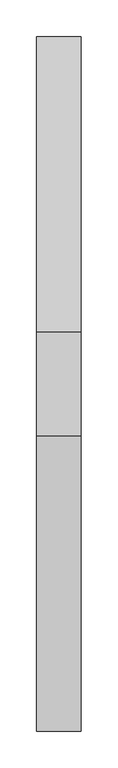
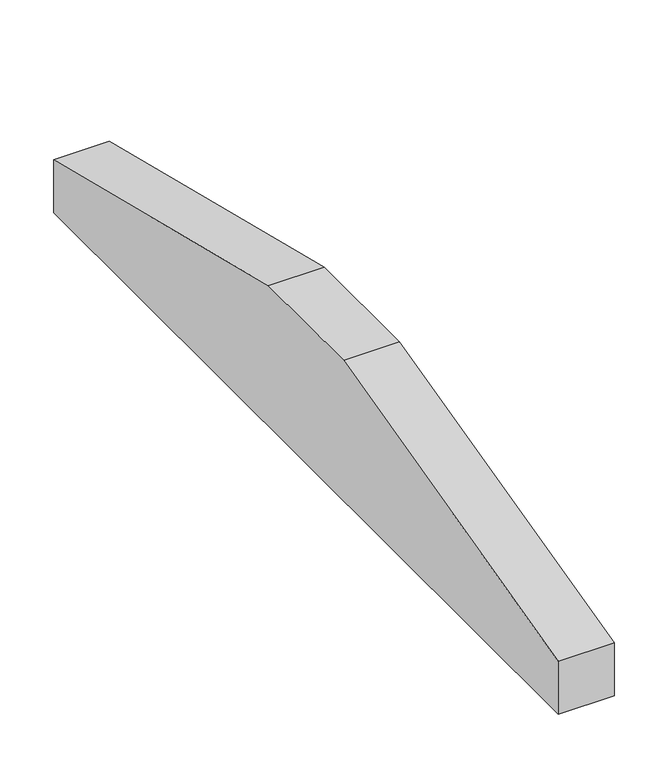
"""IFC4 building model written with IfcOpenShell, lengths in millimetres: proxy geometry, Modelos genéricos 164 : Modelos genéricos 144."""

from ifc_helpers import new_model, si_unit, frame, origin, place, context, project, spatial, polyline, outline, extrude, source, transform, mapped, element, save


def generic_models_764a092e(model_context):
    return source(origin(), model_context, "Body", "SweptSolid", [
        extrude(outline(polyline([(2018.6238165, 4209.7515316), (2418.6238165, 4110.0203305), (2418.6238165, 4049.7515316), (1478.6238165, 4049.7515316), (1478.6238165, 4110.0203305), (1878.6238165, 4209.7515316), (2018.6238165, 4209.7515316)])), frame((55213.4472467, 0.0, 0.0), z_axis=(1.0, 0.0, 0.0), x_axis=(0.0, 1.0, 0.0)), (0.0, 0.0, 1.0), 60.0),
    ])


if __name__ == "__main__":
    model = new_model("IFC4")
    model_context = context("Model", 3, world=origin())
    ifc_project = project(units=[si_unit("LENGTHUNIT", "METRE", prefix="MILLI")], contexts=[model_context])
    site = spatial("IfcSite", under=ifc_project)
    building = spatial("IfcBuilding", under=site)
    placement = place(None, origin())
    generic_models_shape = generic_models_764a092e(model_context)
    element("IfcBuildingElementProxy", 1, Name="Modelos genéricos 164 : Modelos genéricos 144", ObjectType="Modelos genéricos 164 : Modelos genéricos 144", at=placement, inside=building, context=model_context, shape_type="MappedRepresentation", body=[
        mapped(generic_models_shape, transform((0.0, 0.0, 0.0), x_axis=(1.0, 0.0, 0.0), y_axis=(0.0, 1.0, 0.0), z_axis=(0.0, 0.0, 1.0))),
    ])
    save(model, "model.ifc")
